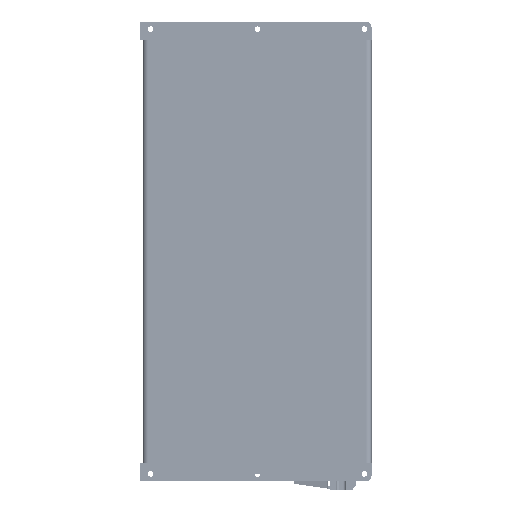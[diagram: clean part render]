
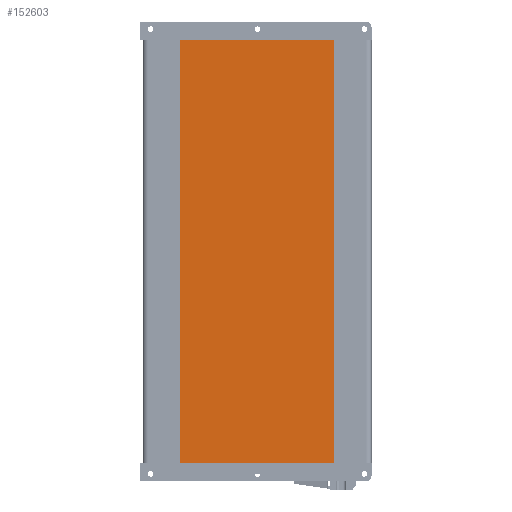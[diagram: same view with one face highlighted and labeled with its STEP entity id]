
A CAD part, front view. The second image highlights one B-rep face of the part: STEP entity #152603.
In plain terms, the highlighted planar face has unit normal (0, -1, 0).
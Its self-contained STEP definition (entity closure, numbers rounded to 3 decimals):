
#19076=FACE_OUTER_BOUND('',#27636,.T.);
#27636=EDGE_LOOP('',(#125812,#125813,#125814,#125815));
#30087=LINE('',#203657,#43370);
#40746=LINE('',#275534,#54029);
#40748=LINE('',#275538,#54031);
#40749=LINE('',#275539,#54032);
#43370=VECTOR('',#166793,0.394);
#54029=VECTOR('',#191840,0.394);
#54031=VECTOR('',#191844,0.394);
#54032=VECTOR('',#191845,0.394);
#56801=VERTEX_POINT('',#203654);
#56802=VERTEX_POINT('',#203656);
#67561=VERTEX_POINT('',#275533);
#67562=VERTEX_POINT('',#275537);
#71353=EDGE_CURVE('',#56801,#56802,#30087,.T.);
#87666=EDGE_CURVE('',#56802,#67561,#40746,.T.);
#87668=EDGE_CURVE('',#56801,#67562,#40748,.T.);
#87669=EDGE_CURVE('',#67561,#67562,#40749,.T.);
#125812=ORIENTED_EDGE('',*,*,#71353,.F.);
#125813=ORIENTED_EDGE('',*,*,#87668,.T.);
#125814=ORIENTED_EDGE('',*,*,#87669,.F.);
#125815=ORIENTED_EDGE('',*,*,#87666,.F.);
#139924=PLANE('',#162150);
#152603=ADVANCED_FACE('',(#19076),#139924,.T.);
#162150=AXIS2_PLACEMENT_3D('',#275536,#191842,#191843);
#166793=DIRECTION('',(-1.,0.,0.));
#191840=DIRECTION('',(0.,0.,1.));
#191842=DIRECTION('center_axis',(0.,-1.,0.));
#191843=DIRECTION('ref_axis',(1.,0.,0.));
#191844=DIRECTION('',(0.,0.,1.));
#191845=DIRECTION('',(1.,0.,0.));
#203654=CARTESIAN_POINT('',(2.723,-0.91,-7.717));
#203656=CARTESIAN_POINT('',(-3.214,-0.91,-7.717));
#203657=CARTESIAN_POINT('',(-1.283,-0.91,-7.717));
#275533=CARTESIAN_POINT('',(-3.214,-0.91,8.622));
#275534=CARTESIAN_POINT('',(-3.214,-0.91,-7.717));
#275536=CARTESIAN_POINT('Origin',(-3.214,-0.91,
-7.717));
#275537=CARTESIAN_POINT('',(2.723,-0.91,8.622));
#275538=CARTESIAN_POINT('',(2.723,-0.91,-7.717));
#275539=CARTESIAN_POINT('',(-3.214,-0.91,8.622));
